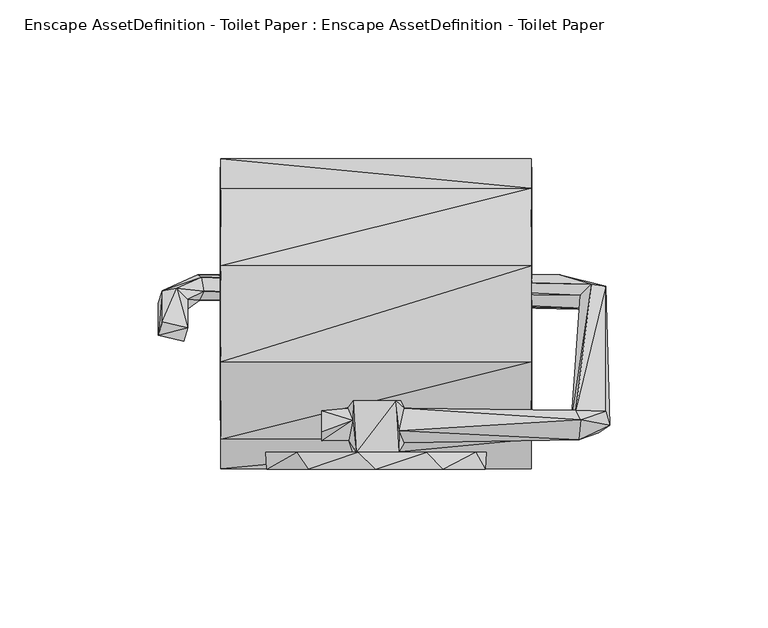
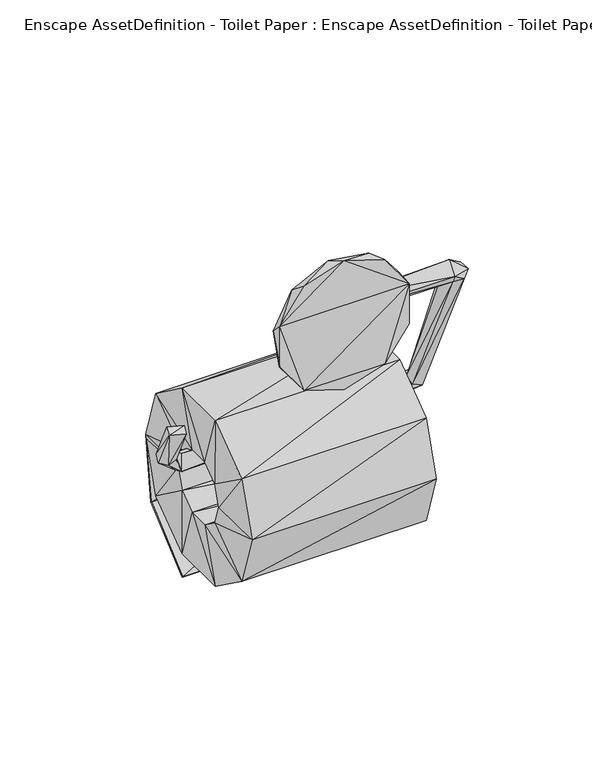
"""IFC4 building model written with IfcOpenShell, lengths in millimetres: geographic element geometry, Enscape AssetDefinition - Toilet Paper : Enscape AssetDefinition - Toilet Paper."""

from ifc_helpers import new_model, si_unit, origin, place, context, project, spatial, faceted_brep, source, transform, mapped, element, save


def enscape_assetdefinition_toilet_paper_enscape_assetdefinition_5974bb4b(model_context):
    return source(origin(), model_context, "Body", "Brep", [
        faceted_brep([(7.2812387, 12.1629322, 5.1993392), (8.957969, 8.3856182, 0.0), (63.9222711, 9.346419, -0.825089), (64.6814704, 15.6471878, 4.4627576), (73.7220496, 13.9448894, -2.7398069), (70.3636706, 11.5738651, -5.6015574), (65.7770038, 13.606593, -7.0521017), (8.957969, 19.3192773, 0.0), (63.0440786, 18.6997224, 0.825089), (72.4927709, 18.3486417, -1.3295831), (70.3636706, 50.4100844, -88.8863727), (72.4927709, 57.8840747, -86.1131325), (65.7770038, 50.9371981, -87.1083587), (57.8319542, 57.8408018, -96.875675), (-55.6340106, 53.3780493, -95.2510685), (-54.1510135, 56.191612, -87.5213891), (64.547725, 54.9377501, -84.8327205), (-59.467379, 53.7645333, -82.3161528), (-55.0065897, 60.6543645, -89.1460031), (-62.8257617, 57.1425743, -81.6149712), (61.8452914, 17.0760974, -3.6376689), (67.906104, 58.4111884, -84.3351111), (-67.4124286, 56.4866327, -83.116658), (-56.1768562, 61.4784732, -93.8231423), (-67.4124286, 46.5973653, -61.9092099), (-59.467379, 44.6678996, -62.8090352), (-68.6416999, 52.4516664, -85.3175446), (-68.6416999, 42.4394682, -63.8475344), (-56.4905666, 57.8408018, -96.875675), (57.8319542, 61.4784732, -93.8231423), (-65.2843118, 49.0726344, -86.0187188), (-60.696654, 40.5099988, -64.7473559), (-60.696654, 49.7295596, -84.5180303), (7.2812387, 12.1629322, -5.1993392), (6.2565152, 21.6303132, 6.2565152), (7.8830905, 21.6303132, -4.0162853), (6.2565152, 5.4422435, -6.2565152), (-6.2565152, 21.6303132, -6.2565152), (-7.2812387, 12.1629322, -5.1993392), (-8.957969, 19.3192773, 0.0), (-7.2468184, 5.4422435, -5.265228), (-7.1740458, 21.6303132, 5.2435934), (-17.0888808, 16.101528, -4.4558737), (-17.0888808, 18.4794385, 2.0779655), (-7.2812387, 15.5419623, 5.1993392), (-17.0888808, 9.1251498, 0.4287709), (-8.5193636, 9.2854472, 2.7683261), (-17.0888808, 11.9455969, 4.4558737), (-6.2565152, 5.4422435, 6.2565152), (7.2478019, 5.4422435, 5.265228), (-5.5169836, 5.4422435, 34.8337032), (16.0110537, 5.4422435, 31.4241871), (31.4241871, 5.4422435, 16.0110537), (5.5169836, 5.4422435, -34.8337032), (34.8337032, 5.4422435, -5.5169836), (24.9385368, 5.4422435, -24.9375533), (21.310702, 0.0, 29.3314718), (34.4816409, 0.0, 11.2040984), (0.0, 0.0, 36.2557285), (-34.4816409, 0.0, 11.2040984), (-21.310702, 0.0, 29.3314718), (-21.310702, 0.0, -29.3314718), (-34.4816409, 0.0, -11.2031149), (-34.8337032, 5.4422435, 5.5169836), (-24.9375533, 5.4422435, 24.9385368), (-31.4241871, 5.4422435, -16.0110537), (-16.0110537, 5.4422435, -31.4232074), (0.0, 0.0, -36.2557285), (21.310702, 0.0, -29.3314718), (34.4816409, 0.0, -11.2031149)], [[[0, 1, 2]], [[0, 2, 3]], [[3, 2, 4]], [[5, 4, 2]], [[1, 6, 2]], [[6, 5, 2]], [[7, 0, 3]], [[8, 3, 9]], [[7, 3, 8]], [[4, 9, 3]], [[10, 11, 4]], [[5, 10, 4]], [[4, 11, 9]], [[12, 10, 5]], [[6, 12, 5]], [[10, 13, 11]], [[13, 10, 14]], [[10, 12, 14]], [[15, 14, 12]], [[16, 12, 6]], [[12, 16, 15]], [[15, 17, 14]], [[18, 15, 16]], [[18, 19, 15]], [[19, 17, 15]], [[20, 16, 6]], [[21, 16, 20]], [[16, 21, 18]], [[22, 19, 18]], [[23, 18, 21]], [[23, 22, 18]], [[24, 25, 19]], [[19, 22, 24]], [[17, 19, 25]], [[22, 26, 27]], [[26, 22, 23]], [[27, 24, 22]], [[28, 23, 29]], [[21, 29, 23]], [[28, 26, 23]], [[30, 26, 28]], [[26, 30, 27]], [[31, 27, 30]], [[25, 24, 27]], [[25, 27, 31]], [[32, 17, 25]], [[25, 31, 32]], [[30, 32, 31]], [[32, 30, 14]], [[14, 30, 28]], [[14, 28, 13]], [[29, 13, 28]], [[11, 29, 21]], [[13, 29, 11]], [[11, 21, 8]], [[8, 21, 20]], [[9, 11, 8]], [[7, 8, 20]], [[33, 7, 20]], [[33, 20, 6]], [[0, 7, 34]], [[35, 7, 33]], [[35, 34, 7]], [[1, 33, 6]], [[33, 1, 36]], [[35, 33, 36]], [[35, 37, 34]], [[37, 35, 36]], [[38, 39, 37]], [[37, 36, 40]], [[37, 41, 34]], [[38, 37, 40]], [[37, 39, 41]], [[42, 39, 38]], [[43, 39, 42]], [[43, 44, 39]], [[44, 41, 39]], [[42, 38, 45]], [[38, 46, 45]], [[46, 38, 40]], [[43, 42, 45]], [[43, 45, 47]], [[47, 44, 43]], [[45, 46, 44]], [[45, 44, 47]], [[44, 46, 48]], [[41, 44, 48]], [[34, 41, 48]], [[34, 48, 49]], [[0, 34, 49]], [[1, 0, 49]], [[1, 49, 36]], [[49, 48, 50]], [[49, 51, 52]], [[36, 49, 52]], [[49, 50, 51]], [[40, 36, 53]], [[36, 54, 55]], [[36, 52, 54]], [[36, 55, 53]], [[52, 56, 57]], [[54, 52, 57]], [[52, 51, 56]], [[51, 50, 58]], [[51, 58, 56]], [[57, 56, 58]], [[57, 58, 59]], [[58, 60, 59]], [[50, 60, 58]], [[57, 59, 61]], [[59, 62, 61]], [[63, 62, 59]], [[64, 63, 59]], [[64, 59, 60]], [[50, 64, 60]], [[48, 64, 50]], [[48, 63, 64]], [[40, 65, 63]], [[48, 40, 63]], [[63, 65, 62]], [[65, 61, 62]], [[40, 66, 65]], [[65, 66, 61]], [[40, 53, 66]], [[46, 40, 48]], [[66, 67, 61]], [[66, 53, 67]], [[53, 55, 68]], [[53, 68, 67]], [[61, 67, 68]], [[57, 61, 68]], [[57, 68, 69]], [[55, 69, 68]], [[55, 54, 69]], [[54, 57, 69]], [[17, 32, 14]]]),
        faceted_brep([(-49.1709784, 54.9141504, -121.6116324), (-48.9742942, 64.3048212, -150.511384), (-48.9742942, 34.0371355, -150.511384), (-49.1709784, 43.4268266, -121.6116324), (-48.9742942, 9.5499866, -132.7203363), (48.9742942, 34.0371355, -150.511384), (48.9742942, 9.5499866, -132.7203363), (-49.1709784, 34.1335088, -114.8594692), (49.1709784, 34.1335088, -114.8594692), (49.1709784, 43.4268266, -121.6116324), (-48.9742942, 0.1966839, -103.9346606), (48.9742942, 0.1966839, -103.9346606), (49.1709784, 30.5843465, -103.9346606), (48.9742942, 64.3048212, -150.511384), (49.1709784, 54.9141504, -121.6116324), (-48.9742942, 88.7919664, -132.7203363), (48.9742942, 88.7919664, -132.7203363), (-49.1709784, 64.2084479, -114.8594692), (49.1709784, 64.2084479, -114.8594692), (48.9742942, 96.9445109, -106.0716361), (-48.9742942, 96.9445109, -106.0716361), (-49.1709784, 67.7576065, -103.9346606), (49.1709784, 67.7576065, -103.9346606), (48.9742942, 98.1452689, -103.9346606), (-49.1709784, 92.1818167, -138.2176578), (49.1709784, 92.1818167, -138.2176578), (-48.9742942, 98.1452689, -103.9346606), (-49.1709784, 92.9587185, -138.6424899), (-49.1709784, 64.2084479, -93.0088684), (-48.9742942, 88.7919664, -75.1480013), (48.9742942, 88.7919664, -75.1480013), (49.1709784, 92.9587185, -138.6415064), (-49.1709784, 64.3657967, -163.7442708), (49.1709784, 64.3657967, -163.7442708), (49.1709784, 63.7816414, -163.0794704), (-49.1709784, 63.7816414, -163.0794704), (49.1709784, 64.2084479, -93.0088684), (48.9742942, 64.3048212, -57.3569611), (49.1709784, 54.9151301, -86.2567127), (-49.1709784, 54.9151301, -86.2567127), (-48.9742942, 64.3048212, -57.3569611), (-48.9742942, 34.0371355, -57.3569611), (48.9742942, 34.0371355, -57.3569611), (-49.1709784, 43.4268266, -86.2567127), (-49.1709784, 34.1335088, -93.0088684), (-48.9742942, 9.5499866, -75.1480013), (49.1709784, 43.4268266, -86.2567127), (-49.1709784, 30.5843465, -103.9346606), (49.1709784, 34.1335088, -93.0088684), (48.9742942, 9.5499866, -75.1480013)], [[[0, 1, 2]], [[2, 3, 0]], [[3, 2, 4]], [[5, 2, 1]], [[6, 4, 2]], [[2, 5, 6]], [[4, 7, 3]], [[8, 9, 3]], [[3, 7, 8]], [[0, 3, 9]], [[7, 4, 10]], [[11, 10, 4]], [[4, 6, 11]], [[8, 6, 5]], [[12, 11, 6]], [[6, 8, 12]], [[5, 9, 8]], [[12, 8, 7]], [[1, 13, 5]], [[9, 5, 13]], [[13, 14, 9]], [[9, 14, 0]], [[13, 1, 15]], [[15, 16, 13]], [[14, 13, 16]], [[1, 0, 17]], [[17, 15, 1]], [[17, 0, 14]], [[16, 18, 14]], [[14, 18, 17]], [[19, 16, 15]], [[18, 16, 19]], [[15, 20, 19]], [[15, 17, 21]], [[21, 20, 15]], [[21, 17, 18]], [[18, 22, 21]], [[19, 22, 18]], [[22, 19, 23]], [[19, 20, 24]], [[24, 25, 19]], [[23, 19, 25]], [[26, 20, 21]], [[27, 24, 20]], [[20, 26, 27]], [[26, 21, 28]], [[28, 21, 22]], [[28, 29, 26]], [[30, 23, 26]], [[26, 29, 30]], [[27, 26, 23]], [[23, 31, 27]], [[32, 27, 31]], [[24, 27, 32]], [[31, 33, 32]], [[25, 31, 23]], [[31, 25, 34]], [[34, 33, 31]], [[35, 32, 33]], [[32, 35, 24]], [[33, 34, 35]], [[35, 34, 25]], [[25, 24, 35]], [[22, 23, 30]], [[30, 36, 22]], [[22, 36, 28]], [[36, 30, 37]], [[37, 38, 36]], [[36, 38, 39]], [[39, 28, 36]], [[37, 40, 41]], [[41, 42, 37]], [[40, 37, 30]], [[38, 37, 42]], [[41, 43, 44]], [[44, 45, 41]], [[43, 41, 40]], [[42, 41, 45]], [[40, 39, 43]], [[39, 40, 29]], [[30, 29, 40]], [[38, 46, 43]], [[43, 39, 38]], [[44, 43, 46]], [[45, 44, 47]], [[46, 48, 44]], [[47, 44, 48]], [[47, 10, 45]], [[49, 45, 10]], [[45, 49, 42]], [[10, 47, 7]], [[48, 12, 47]], [[7, 47, 12]], [[48, 49, 11]], [[11, 12, 48]], [[49, 48, 46]], [[46, 42, 49]], [[42, 46, 38]], [[10, 11, 49]], [[29, 28, 39]]]),
    ])


if __name__ == "__main__":
    model = new_model("IFC4")
    model_context = context("Model", 3, world=origin())
    ifc_project = project(units=[si_unit("LENGTHUNIT", "METRE", prefix="MILLI")], contexts=[model_context])
    site = spatial("IfcSite", under=ifc_project)
    building = spatial("IfcBuilding", under=site)
    placement = place(None, origin())
    enscape_assetdefinition_toilet_paper_enscape_assetdefinition_shape = enscape_assetdefinition_toilet_paper_enscape_assetdefinition_5974bb4b(model_context)
    element("IfcGeographicElement", 1, ObjectType="Enscape AssetDefinition - Toilet Paper : Enscape AssetDefinition - Toilet Paper", at=placement, inside=building, context=model_context, shape_type="MappedRepresentation", body=[
        mapped(enscape_assetdefinition_toilet_paper_enscape_assetdefinition_shape, transform((0.0, 0.0, 0.0), x_axis=(1.0, 0.0, 0.0), y_axis=(0.0, 1.0, 0.0), z_axis=(0.0, 0.0, 1.0))),
    ])
    save(model, "model.ifc")
